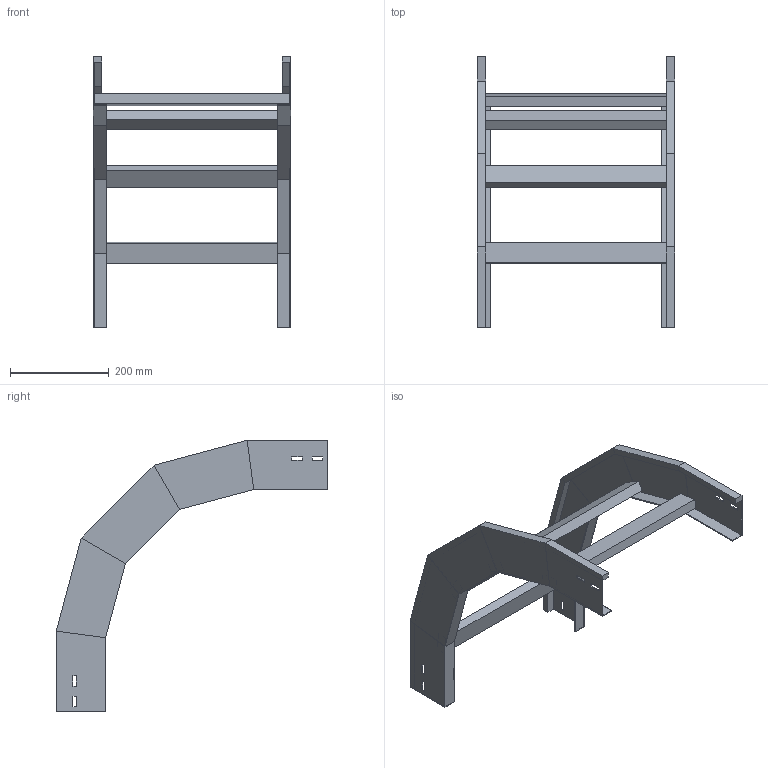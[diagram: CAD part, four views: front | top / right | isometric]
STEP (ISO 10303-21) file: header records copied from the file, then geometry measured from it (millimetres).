
FILE_DESCRIPTION (( 'STEP AP214' ), '1' );
FILE_NAME ('A2_33B3D400.step', '2025-02-21T15:01:54', ( '' ), ( '' ), 'SwSTEP 2.0', 'SolidWorks 2023', '' );
FILE_SCHEMA (( 'AUTOMOTIVE_DESIGN' ));
Length unit declared in the file: millimetre
Products named in the file (3): LONGH.DISCESA_90°_H100_R300; A2_33B3D400; TRAVERSINO_400
Assembly tree (6 placements, depth 2):
  A2_33B3D400
    LONGH.DISCESA_90°_H100_R300  x2
    TRAVERSINO_400  x4
Bounding box: 400 x 549.44 x 549.44 mm (x, y, z)
Volume: 2046660.1 mm3; surface area: 678339.4 mm2
Topology: 6 solids, 6 shells, 140 faces, 320 edges, 192 vertices
Faces by surface type: plane 140
Entity records: 1872 total; most frequent: CARTESIAN_POINT 309, ORIENTED_EDGE 296, DIRECTION 294, VECTOR 148, LINE 148, EDGE_CURVE 148, VERTEX_POINT 88, AXIS2_PLACEMENT_3D 73
